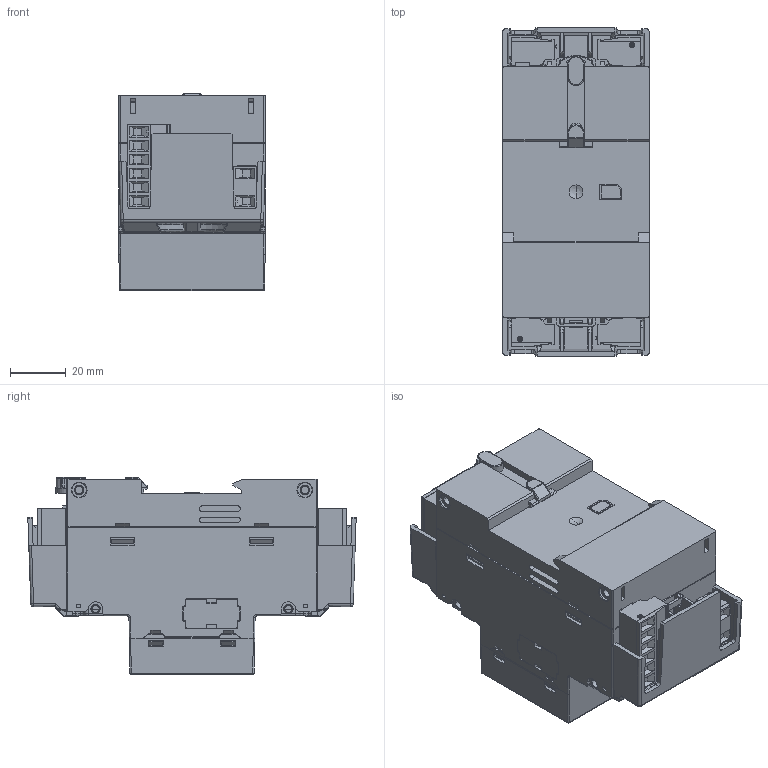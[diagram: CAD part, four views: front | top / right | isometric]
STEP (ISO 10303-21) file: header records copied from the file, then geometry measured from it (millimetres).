
FILE_DESCRIPTION((''),'2;1');
FILE_NAME('0000002228_ASM_1278_SW0001','2021-01-22T08:24:46',('esors'),(''),'CREO PARAMETRIC BY PTC INC, 2018260','CREO PARAMETRIC BY PTC INC, 2018260','');
FILE_SCHEMA(('AUTOMOTIVE_DESIGN { 1 0 10303 214 1 1 1 1 }'));
Products named in the file (1): 0000002228_ASM_1278_SW0001
Bounding box: 52.5 x 117.85 x 70.7 mm (x, y, z)
Volume: 272742.1 mm3; surface area: 87196.8 mm2
Topology: 1 solids, 1 shells, 3942 faces, 11456 edges, 7544 vertices
Faces by surface type: plane 2861, cylinder 670, extrusion 172, cone 129, torus 64, bspline 34, sphere 12
Entity records: 175447 total; most frequent: CARTESIAN_POINT 37662, ORIENTED_EDGE 22888, DIRECTION 18435, PRESENTATION_STYLE_ASSIGNMENT 11445, STYLED_ITEM 11445, CURVE_STYLE 11444, EDGE_CURVE 11444, VECTOR 8489
